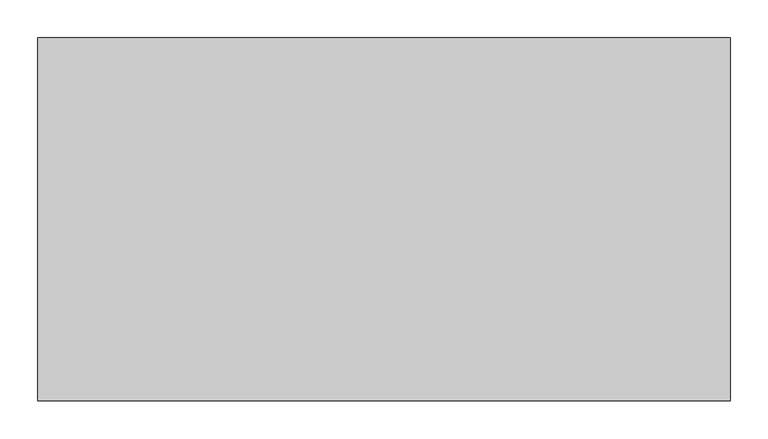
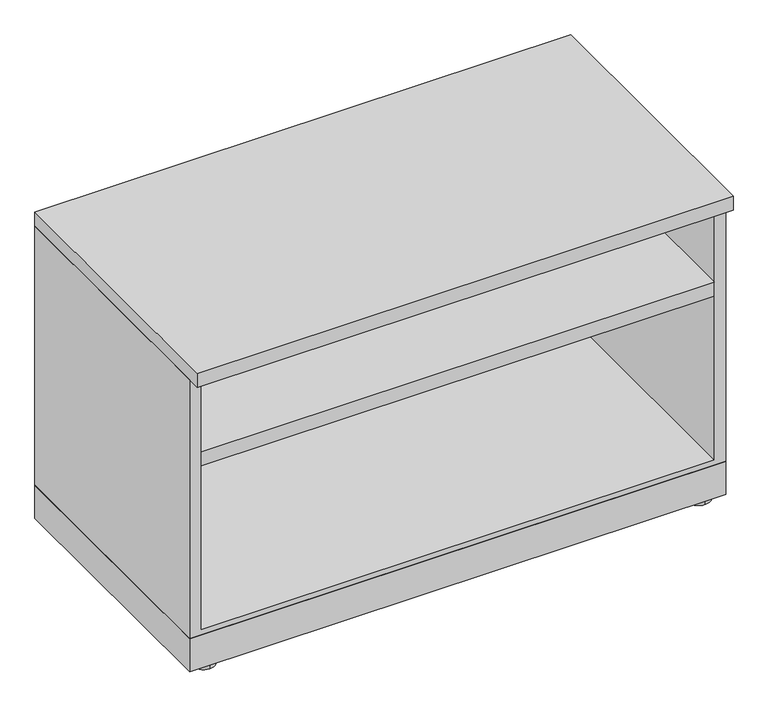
"""IFC4 building model written with IfcOpenShell, lengths in millimetres: furniture geometry, Steelcase - Universal Storage - Lateral File - 1.5 High - Proud Front : Open/Open - 18 7/8D x 36W."""

from ifc_helpers import new_model, si_unit, point, frame, frame_2d, origin, origin_with_axes, place, context, project, spatial, polyline, circle_curve, trimmed, segment, composite_curve, outline, extrude, source, transform, mapped, element, save


def furniture_d815d8c4(model_context):
    return source(origin(), model_context, "Body", "SweptSolid", [
        extrude(outline(polyline([(914.4, 0.0), (914.4, -457.2), (0.0, -457.2), (0.0, 0.0), (914.4, 0.0)])), frame((0.0, 0.0, 6.3500002), z_axis=(0.0, 0.0, 1.0), x_axis=(1.0, 0.0, 0.0)), (0.0, 0.0, 1.0), 59.6899998),
        extrude(outline(composite_curve([segment(trimmed(circle_curve(frame_2d((879.7290058, -22.3366334)), 20.32), [point((879.7290058, -42.6566334))], [point((879.7290058, -2.0166334))], False, "CARTESIAN"), True, "CONTINUOUS"), segment(trimmed(circle_curve(frame_2d((879.7290058, -22.3366334)), 20.32), [point((879.7290058, -2.0166334))], [point((879.7290058, -42.6566334))], False, "CARTESIAN"), True, "CONTINUOUS")], self_intersect=False)), origin_with_axes(), (0.0, 0.0, 1.0), 6.3500002),
        extrude(outline(composite_curve([segment(trimmed(circle_curve(frame_2d((879.7290058, -436.4508545)), 20.32), [point((879.7290058, -456.7708545))], [point((879.7290058, -416.1308545))], False, "CARTESIAN"), True, "CONTINUOUS"), segment(trimmed(circle_curve(frame_2d((879.7290058, -436.4508545)), 20.32), [point((879.7290058, -416.1308545))], [point((879.7290058, -456.7708545))], False, "CARTESIAN"), True, "CONTINUOUS")], self_intersect=False)), origin_with_axes(), (0.0, 0.0, 1.0), 6.3500002),
        extrude(outline(composite_curve([segment(trimmed(circle_curve(frame_2d((34.29, -22.3366334)), 20.32), [point((34.29, -2.0166334))], [point((34.29, -42.6566334))], False, "CARTESIAN"), True, "CONTINUOUS"), segment(trimmed(circle_curve(frame_2d((34.29, -22.3366334)), 20.32), [point((34.29, -42.6566334))], [point((34.29, -2.0166334))], False, "CARTESIAN"), True, "CONTINUOUS")], self_intersect=False)), origin_with_axes(), (0.0, 0.0, 1.0), 6.3500002),
        extrude(outline(composite_curve([segment(trimmed(circle_curve(frame_2d((34.29, -436.4508545)), 20.32), [point((34.29, -416.1308545))], [point((34.29, -456.7708545))], False, "CARTESIAN"), True, "CONTINUOUS"), segment(trimmed(circle_curve(frame_2d((34.29, -436.4508545)), 20.32), [point((34.29, -456.7708545))], [point((34.29, -416.1308545))], False, "CARTESIAN"), True, "CONTINUOUS")], self_intersect=False)), origin_with_axes(), (0.0, 0.0, 1.0), 6.3500002),
        extrude(outline(polyline([(533.273, 19.05), (533.273, 0.0), (66.04, 0.0), (66.04, 914.4), (533.273, 914.4), (533.273, 895.35), (75.184001, 895.35), (75.184001, 19.05), (533.273, 19.05)])), frame((0.0, -457.0730121, 0.0), z_axis=(0.0, 1.0, 0.0), x_axis=(0.0, 0.0, 1.0)), (0.0, 0.0, 1.0), 457.0730121),
        extrude(outline(polyline([(895.35, 0.0), (895.35, -3.9370001), (19.05, -3.9370001), (19.05, 0.0), (895.35, 0.0)])), frame((0.0, 0.0, 75.184001), z_axis=(0.0, 0.0, 1.0), x_axis=(1.0, 0.0, 0.0)), (0.0, 0.0, 1.0), 458.088999),
        extrude(outline(polyline([(-16.1036001, 371.5511945), (-457.0730121, 371.5511945), (-457.0730121, 396.8242158), (-19.2785993, 396.8242158), (-19.2785993, 410.7941843), (-16.1036001, 410.7941843), (-16.1036001, 371.5511945)])), frame((19.05, 0.0, 0.0), z_axis=(1.0, 0.0, 0.0), x_axis=(0.0, 1.0, 0.0)), (0.0, 0.0, 1.0), 876.3),
        extrude(outline(polyline([(914.4, 0.0), (914.4, -479.298), (0.0, -479.298), (0.0, 0.0), (914.4, 0.0)])), frame((0.0, 0.0, 533.273), z_axis=(0.0, 0.0, 1.0), x_axis=(1.0, 0.0, 0.0)), (0.0, 0.0, 1.0), 25.399985),
    ])


if __name__ == "__main__":
    model = new_model("IFC4")
    model_context = context("Model", 3, world=origin())
    ifc_project = project(units=[si_unit("LENGTHUNIT", "METRE", prefix="MILLI")], contexts=[model_context])
    site = spatial("IfcSite", under=ifc_project)
    building = spatial("IfcBuilding", under=site)
    placement = place(None, origin())
    furniture_shape = furniture_d815d8c4(model_context)
    element("IfcFurniture", 1, ObjectType="Steelcase - Universal Storage - Lateral File - 1.5 High - Proud Front : Open/Open - 18 7/8D x 36W", at=placement, inside=building, context=model_context, shape_type="MappedRepresentation", body=[
        mapped(furniture_shape, transform((0.0, 0.0, 0.0), x_axis=(1.0, 0.0, 0.0), y_axis=(0.0, 1.0, 0.0), z_axis=(0.0, 0.0, 1.0))),
    ])
    save(model, "model.ifc")
